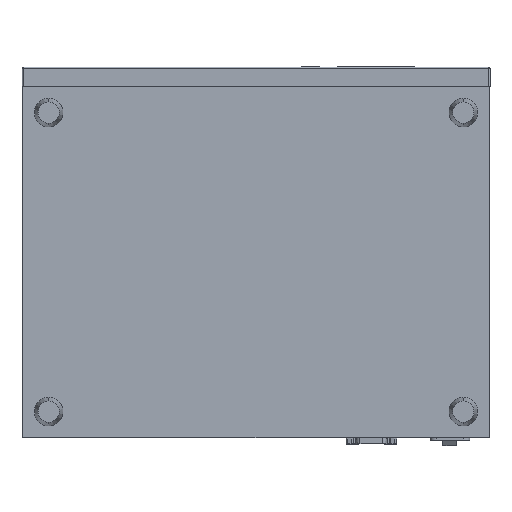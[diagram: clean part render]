
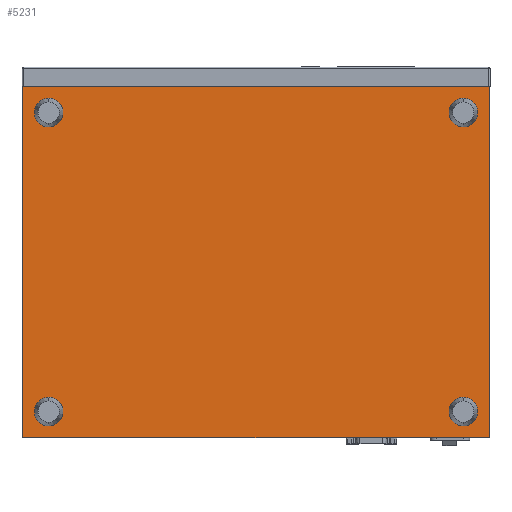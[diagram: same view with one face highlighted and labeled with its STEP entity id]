
A CAD part, front view. The second image highlights one B-rep face of the part: STEP entity #5231.
In plain terms, the highlighted planar face has unit normal (0, -1, 0).
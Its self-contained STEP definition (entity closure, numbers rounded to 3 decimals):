
#220 = CIRCLE ( 'NONE', #17790, 11. ) ;
#458 = CARTESIAN_POINT ( 'NONE',  ( -179.5, -67., -270. ) ) ;
#617 = FACE_BOUND ( 'NONE', #16130, .T. ) ;
#921 = EDGE_LOOP ( 'NONE', ( #21326, #21629 ) ) ;
#1183 = FACE_OUTER_BOUND ( 'NONE', #13794, .T. ) ;
#1294 = ORIENTED_EDGE ( 'NONE', *, *, #6261, .F. ) ;
#1374 = LINE ( 'NONE', #9537, #19262 ) ;
#1434 = CARTESIAN_POINT ( 'NONE',  ( -179.5, -67., 0. ) ) ;
#1526 = CIRCLE ( 'NONE', #13439, 11. ) ;
#1865 = VERTEX_POINT ( 'NONE', #18108 ) ;
#2486 = CARTESIAN_POINT ( 'NONE',  ( -159.5, -67., -20. ) ) ;
#2543 = DIRECTION ( 'NONE',  ( 0., -1., 0. ) ) ;
#2628 = LINE ( 'NONE', #458, #15929 ) ;
#2855 = CARTESIAN_POINT ( 'NONE',  ( 159.5, -67., -31. ) ) ;
#3311 = ORIENTED_EDGE ( 'NONE', *, *, #13972, .F. ) ;
#3356 = CARTESIAN_POINT ( 'NONE',  ( -179.5, -67., -270. ) ) ;
#3389 = AXIS2_PLACEMENT_3D ( 'NONE', #4103, #16241, #5834 ) ;
#3877 = DIRECTION ( 'NONE',  ( 0., 0., 1. ) ) ;
#3893 = DIRECTION ( 'NONE',  ( 0., -1., 0. ) ) ;
#4070 = CARTESIAN_POINT ( 'NONE',  ( 179.5, -67., -270. ) ) ;
#4103 = CARTESIAN_POINT ( 'NONE',  ( 159.5, -67., -20. ) ) ;
#4220 = CIRCLE ( 'NONE', #14666, 11. ) ;
#4226 = DIRECTION ( 'NONE',  ( 0., 0., 1. ) ) ;
#4830 = VERTEX_POINT ( 'NONE', #19940 ) ;
#5189 = AXIS2_PLACEMENT_3D ( 'NONE', #5434, #17571, #7151 ) ;
#5210 = VERTEX_POINT ( 'NONE', #16705 ) ;
#5227 = FACE_BOUND ( 'NONE', #921, .T. ) ;
#5231 = ADVANCED_FACE ( 'NONE', ( #14483, #5227, #1183, #617, #19056 ), #18432, .F. ) ;
#5434 = CARTESIAN_POINT ( 'NONE',  ( -159.5, -67., -20. ) ) ;
#5569 = AXIS2_PLACEMENT_3D ( 'NONE', #18687, #8287, #20431 ) ;
#5589 = CARTESIAN_POINT ( 'NONE',  ( -159.5, -67., -261. ) ) ;
#5834 = DIRECTION ( 'NONE',  ( 0., 0., 1. ) ) ;
#6261 = EDGE_CURVE ( 'NONE', #18887, #1865, #14692, .T. ) ;
#6388 = DIRECTION ( 'NONE',  ( 0., 1., 0. ) ) ;
#7151 = DIRECTION ( 'NONE',  ( 0., 0., 1. ) ) ;
#7215 = CARTESIAN_POINT ( 'NONE',  ( 159.5, -67., -250. ) ) ;
#7775 = DIRECTION ( 'NONE',  ( -1., 0., 0. ) ) ;
#7888 = VECTOR ( 'NONE', #15419, 1000. ) ;
#8287 = DIRECTION ( 'NONE',  ( 0., -1., 0. ) ) ;
#8531 = EDGE_LOOP ( 'NONE', ( #12461, #8634 ) ) ;
#8634 = ORIENTED_EDGE ( 'NONE', *, *, #19335, .F. ) ;
#8783 = CIRCLE ( 'NONE', #3389, 11. ) ;
#8929 = ORIENTED_EDGE ( 'NONE', *, *, #19800, .F. ) ;
#8963 = DIRECTION ( 'NONE',  ( 0., 0., 1. ) ) ;
#9537 = CARTESIAN_POINT ( 'NONE',  ( 179.5, -67., 0. ) ) ;
#9638 = CARTESIAN_POINT ( 'NONE',  ( 179.5, -67., 0. ) ) ;
#9974 = EDGE_CURVE ( 'NONE', #16701, #4830, #15524, .T. ) ;
#10215 = DIRECTION ( 'NONE',  ( 0., -1., 0. ) ) ;
#10405 = AXIS2_PLACEMENT_3D ( 'NONE', #20575, #10215, #22357 ) ;
#10694 = CARTESIAN_POINT ( 'NONE',  ( -159.5, -67., -31. ) ) ;
#10874 = VERTEX_POINT ( 'NONE', #3356 ) ;
#11483 = CARTESIAN_POINT ( 'NONE',  ( 159.5, -67., -239. ) ) ;
#11767 = CARTESIAN_POINT ( 'NONE',  ( 159.5, -67., -261. ) ) ;
#12232 = CIRCLE ( 'NONE', #5569, 11. ) ;
#12461 = ORIENTED_EDGE ( 'NONE', *, *, #19214, .F. ) ;
#12544 = ORIENTED_EDGE ( 'NONE', *, *, #13857, .T. ) ;
#12576 = LINE ( 'NONE', #20604, #7888 ) ;
#12754 = VERTEX_POINT ( 'NONE', #11767 ) ;
#12969 = CARTESIAN_POINT ( 'NONE',  ( 159.5, -67., -250. ) ) ;
#13149 = EDGE_LOOP ( 'NONE', ( #3311, #1294 ) ) ;
#13439 = AXIS2_PLACEMENT_3D ( 'NONE', #7215, #19385, #8963 ) ;
#13794 = EDGE_LOOP ( 'NONE', ( #12544, #15836, #21368, #20815 ) ) ;
#13857 = EDGE_CURVE ( 'NONE', #21784, #17586, #1374, .T. ) ;
#13972 = EDGE_CURVE ( 'NONE', #1865, #18887, #12232, .T. ) ;
#14132 = EDGE_CURVE ( 'NONE', #4830, #16701, #220, .T. ) ;
#14297 = CARTESIAN_POINT ( 'NONE',  ( -159.5, -67., -250. ) ) ;
#14428 = EDGE_CURVE ( 'NONE', #10874, #17586, #2628, .T. ) ;
#14483 = FACE_BOUND ( 'NONE', #13149, .T. ) ;
#14605 = VERTEX_POINT ( 'NONE', #11483 ) ;
#14630 = DIRECTION ( 'NONE',  ( 0., -1., 0. ) ) ;
#14666 = AXIS2_PLACEMENT_3D ( 'NONE', #12969, #2543, #14691 ) ;
#14691 = DIRECTION ( 'NONE',  ( 0., 0., 1. ) ) ;
#14692 = CIRCLE ( 'NONE', #16910, 11. ) ;
#14997 = EDGE_CURVE ( 'NONE', #5210, #21784, #22115, .T. ) ;
#15419 = DIRECTION ( 'NONE',  ( -1., 0., 0. ) ) ;
#15524 = CIRCLE ( 'NONE', #5189, 11. ) ;
#15693 = EDGE_CURVE ( 'NONE', #5210, #10874, #12576, .T. ) ;
#15836 = ORIENTED_EDGE ( 'NONE', *, *, #14428, .F. ) ;
#15929 = VECTOR ( 'NONE', #3877, 1000. ) ;
#16042 = DIRECTION ( 'NONE',  ( 0., 0., 1. ) ) ;
#16130 = EDGE_LOOP ( 'NONE', ( #16437, #8929 ) ) ;
#16206 = DIRECTION ( 'NONE',  ( 0., 0., 1. ) ) ;
#16241 = DIRECTION ( 'NONE',  ( 0., -1., 0. ) ) ;
#16437 = ORIENTED_EDGE ( 'NONE', *, *, #19106, .F. ) ;
#16513 = VERTEX_POINT ( 'NONE', #2855 ) ;
#16701 = VERTEX_POINT ( 'NONE', #10694 ) ;
#16705 = CARTESIAN_POINT ( 'NONE',  ( 179.5, -67., -270. ) ) ;
#16788 = CARTESIAN_POINT ( 'NONE',  ( 179.5, -67., -270. ) ) ;
#16910 = AXIS2_PLACEMENT_3D ( 'NONE', #14297, #3893, #16042 ) ;
#16945 = VECTOR ( 'NONE', #16206, 1000. ) ;
#17270 = VERTEX_POINT ( 'NONE', #19522 ) ;
#17571 = DIRECTION ( 'NONE',  ( 0., -1., 0. ) ) ;
#17586 = VERTEX_POINT ( 'NONE', #1434 ) ;
#17790 = AXIS2_PLACEMENT_3D ( 'NONE', #2486, #14630, #4226 ) ;
#18108 = CARTESIAN_POINT ( 'NONE',  ( -159.5, -67., -239. ) ) ;
#18432 = PLANE ( 'NONE',  #20150 ) ;
#18500 = DIRECTION ( 'NONE',  ( 0., 0., 1. ) ) ;
#18687 = CARTESIAN_POINT ( 'NONE',  ( -159.5, -67., -250. ) ) ;
#18887 = VERTEX_POINT ( 'NONE', #5589 ) ;
#19056 = FACE_BOUND ( 'NONE', #8531, .T. ) ;
#19106 = EDGE_CURVE ( 'NONE', #17270, #16513, #21893, .T. ) ;
#19214 = EDGE_CURVE ( 'NONE', #14605, #12754, #1526, .T. ) ;
#19262 = VECTOR ( 'NONE', #7775, 1000. ) ;
#19335 = EDGE_CURVE ( 'NONE', #12754, #14605, #4220, .T. ) ;
#19385 = DIRECTION ( 'NONE',  ( 0., -1., 0. ) ) ;
#19522 = CARTESIAN_POINT ( 'NONE',  ( 159.5, -67., -9. ) ) ;
#19800 = EDGE_CURVE ( 'NONE', #16513, #17270, #8783, .T. ) ;
#19940 = CARTESIAN_POINT ( 'NONE',  ( -159.5, -67., -9. ) ) ;
#20150 = AXIS2_PLACEMENT_3D ( 'NONE', #16788, #6388, #18500 ) ;
#20431 = DIRECTION ( 'NONE',  ( 0., 0., 1. ) ) ;
#20575 = CARTESIAN_POINT ( 'NONE',  ( 159.5, -67., -20. ) ) ;
#20604 = CARTESIAN_POINT ( 'NONE',  ( 179.5, -67., -270. ) ) ;
#20815 = ORIENTED_EDGE ( 'NONE', *, *, #14997, .T. ) ;
#21326 = ORIENTED_EDGE ( 'NONE', *, *, #14132, .F. ) ;
#21368 = ORIENTED_EDGE ( 'NONE', *, *, #15693, .F. ) ;
#21629 = ORIENTED_EDGE ( 'NONE', *, *, #9974, .F. ) ;
#21784 = VERTEX_POINT ( 'NONE', #9638 ) ;
#21893 = CIRCLE ( 'NONE', #10405, 11. ) ;
#22115 = LINE ( 'NONE', #4070, #16945 ) ;
#22357 = DIRECTION ( 'NONE',  ( 0., 0., 1. ) ) ;
